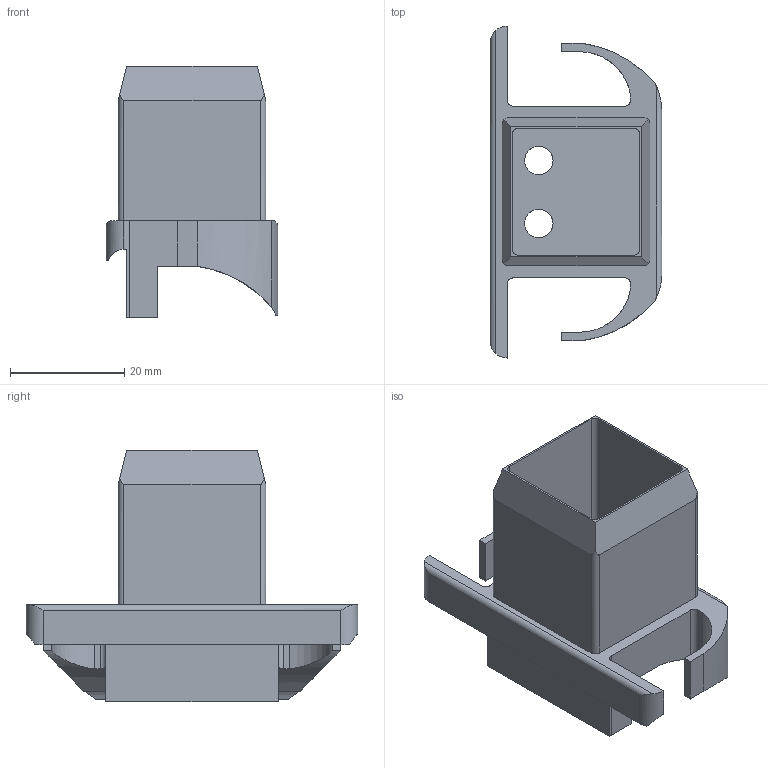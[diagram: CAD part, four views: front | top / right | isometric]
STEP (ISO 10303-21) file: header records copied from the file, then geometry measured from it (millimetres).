
FILE_DESCRIPTION (( 'STEP AP203' ), '1' );
FILE_NAME ('F030107.STEP', '2017-03-22T12:48:34', ( 'Localadmin' ), ( 'Microsoft' ), 'SwSTEP 2.0', 'SolidWorks 2016', '' );
FILE_SCHEMA (( 'CONFIG_CONTROL_DESIGN' ));
Length unit declared in the file: millimetre
Products named in the file (1): F030107
Bounding box: 30 x 58 x 44 mm (x, y, z)
Volume: 12691.7 mm3; surface area: 10756.1 mm2
Topology: 1 solids, 1 shells, 71 faces, 205 edges, 136 vertices
Faces by surface type: plane 40, cylinder 31
Entity records: 2558 total; most frequent: CARTESIAN_POINT 619, ORIENTED_EDGE 410, DIRECTION 371, EDGE_CURVE 205, VERTEX_POINT 136, VECTOR 127, LINE 127, AXIS2_PLACEMENT_3D 122
